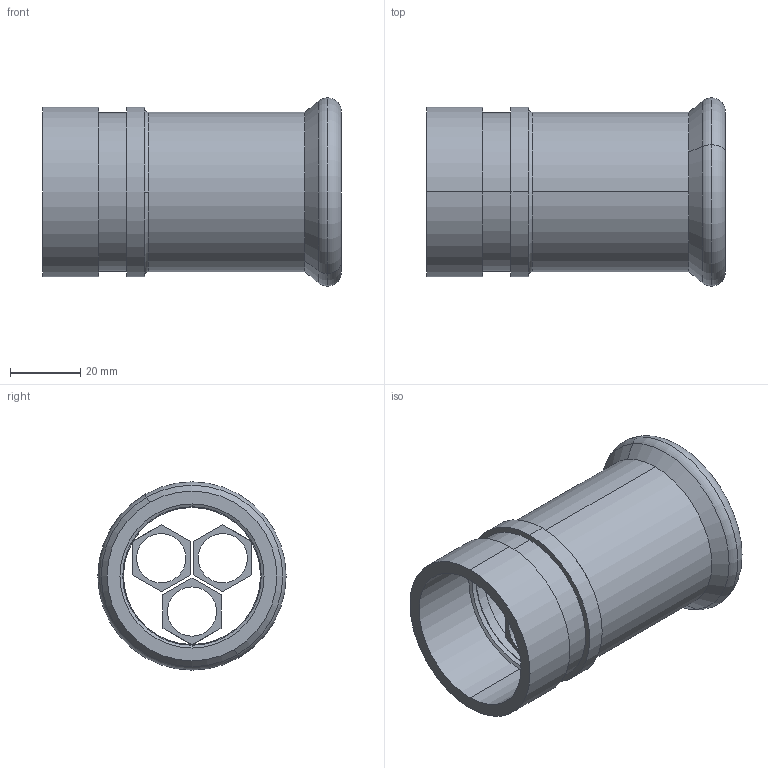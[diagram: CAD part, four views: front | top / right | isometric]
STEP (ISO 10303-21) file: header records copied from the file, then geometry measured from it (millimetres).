
FILE_DESCRIPTION(('OneSpaceDesigner STEP Export'),'2;1');
FILE_NAME('R2748 48x42.stp','2010-06-10T14:51:51',(''),(''),'OneSpace Designer STEP processor for AP214 (Solid Model)','OneSpace Modeling 15.00A 14-Mar-2007 (C) CoCreate Software GmbH','');
FILE_SCHEMA(('AUTOMOTIVE_DESIGN { 1 0 10303 214 1 1 1 1 }'));
Length unit declared in the file: millimetre
Products named in the file (2): R2748_48x42
Assembly tree (1 placements, depth 2):
  R2748_48x42
    R2748_48x42
Bounding box: 85 x 53.55 x 53.55 mm (x, y, z)
Volume: 29362.9 mm3; surface area: 27260.6 mm2
Topology: 1 solids, 1 shells, 73 faces, 189 edges, 126 vertices
Faces by surface type: plane 34, cylinder 27, cone 6, torus 6
Entity records: 1954 total; most frequent: ORIENTED_EDGE 378, CARTESIAN_POINT 314, DIRECTION 277, EDGE_CURVE 189, VERTEX_POINT 126, VECTOR 99, LINE 99, AXIS2_PLACEMENT_3D 89
